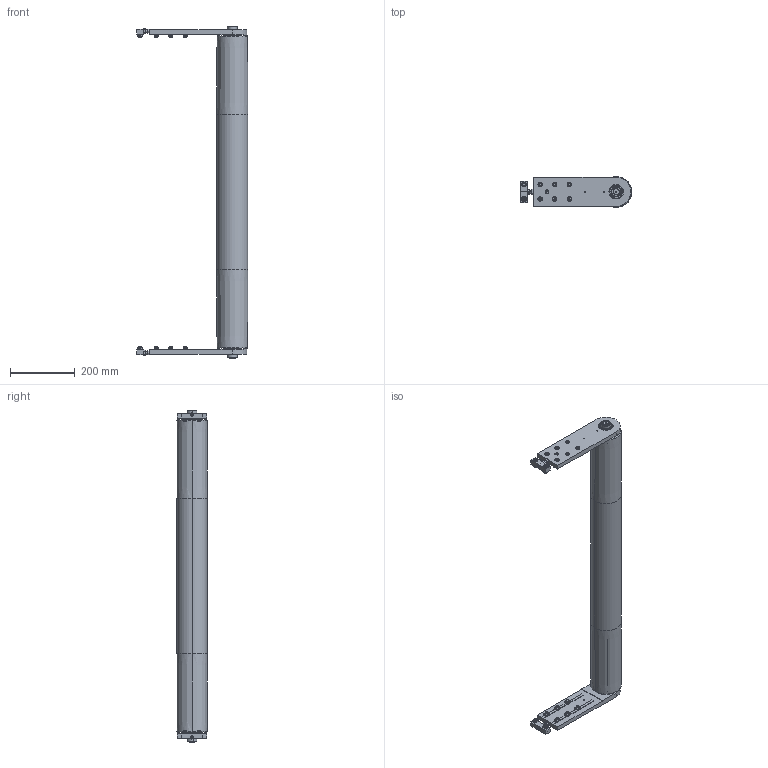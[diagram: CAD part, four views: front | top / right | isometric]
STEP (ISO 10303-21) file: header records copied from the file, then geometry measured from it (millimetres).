
FILE_DESCRIPTION (( 'STEP AP203' ), '1' );
FILE_NAME ('084.095.KI.940.STEP', '2019-10-22T07:21:08', ( 'Localadmin' ), ( 'Microsoft' ), 'SwSTEP 2.0', 'SolidWorks 2018', '' );
FILE_SCHEMA (( 'CONFIG_CONTROL_DESIGN' ));
Length unit declared in the file: millimetre
Products named in the file (10): 084.803.003; Circlip DIN 471 - 30 x 1.5_Circlip DIN 471 - 30 x 1.5; 084.301.000 VITI ALUSIC_084.301.003; 084.095.KI.940; 084.302.000 DADI ALUSIC 13x13_084.302.004; 084.816.182_084.816.107<A macchina>; 084.812.003; 084.808.002_084.808.002; 084.810.003; 084.802.019_084.802.019
Assembly tree (45 placements, depth 2):
  084.095.KI.940
    084.301.000 VITI ALUSIC_084.301.003  x16
    084.302.000 DADI ALUSIC 13x13_084.302.004  x16
    084.816.182_084.816.107<A macchina>
    084.812.003  x2
    084.808.002_084.808.002  x2
    084.810.003  x2
    084.802.019_084.802.019  x2
    084.803.003  x2
    Circlip DIN 471 - 30 x 1.5_Circlip DIN 471 - 30 x 1.5  x2
Bounding box: 343.5 x 95 x 1025 mm (x, y, z)
Volume: 2651830.4 mm3; surface area: 1192639.8 mm2
Topology: 51 solids, 53 shells, 1154 faces, 2840 edges, 1848 vertices
Faces by surface type: plane 563, cylinder 351, torus 108, cone 76, bspline 48, sphere 8
Entity records: 14502 total; most frequent: CARTESIAN_POINT 2620, DIRECTION 2186, ORIENTED_EDGE 1976, EDGE_CURVE 988, AXIS2_PLACEMENT_3D 857, VERTEX_POINT 647, VECTOR 472, LINE 472
